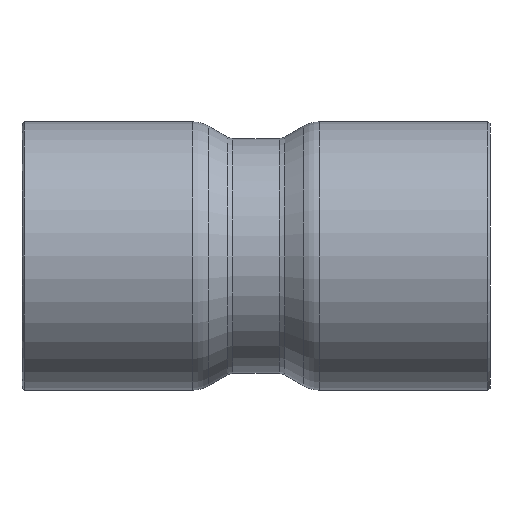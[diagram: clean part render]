
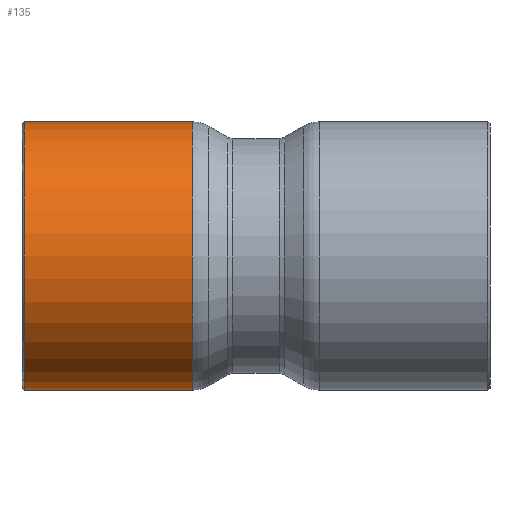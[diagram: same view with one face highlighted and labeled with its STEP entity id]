
A CAD part, front view. The second image highlights one B-rep face of the part: STEP entity #135.
In plain terms, the highlighted cylindrical face has radius 12.7 mm (diameter 25.4 mm), a full revolution.
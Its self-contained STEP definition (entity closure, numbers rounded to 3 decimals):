
#84=CARTESIAN_POINT('',(-21.95,12.7,0.));
#85=VERTEX_POINT('',#84);
#86=CARTESIAN_POINT('',(-21.95,0.0,0.0));
#87=DIRECTION('',(-1.0,0.0,0.0));
#88=DIRECTION('',(0.0,-1.0,0.0));
#89=AXIS2_PLACEMENT_3D('',#86,#87,#88);
#90=CIRCLE('',#89,12.7);
#91=EDGE_CURVE('',#85,#85,#90,.T.);
#116=CARTESIAN_POINT('',(-14.086,0.0,0.0));
#117=DIRECTION('',(1.0,0.0,0.0));
#118=DIRECTION('',(0.0,1.0,0.0));
#119=AXIS2_PLACEMENT_3D('',#116,#117,#118);
#120=CYLINDRICAL_SURFACE('',#119,12.7);
#121=CARTESIAN_POINT('',(-6.022,12.7,0.0));
#122=VERTEX_POINT('',#121);
#123=CARTESIAN_POINT('',(-6.022,0.0,0.0));
#124=DIRECTION('',(1.0,0.0,0.0));
#125=DIRECTION('',(0.0,1.0,0.0));
#126=AXIS2_PLACEMENT_3D('',#123,#124,#125);
#127=CIRCLE('',#126,12.7);
#128=EDGE_CURVE('',#122,#122,#127,.T.);
#129=ORIENTED_EDGE('',*,*,#128,.F.);
#130=EDGE_LOOP('',(#129));
#131=FACE_OUTER_BOUND('',#130,.T.);
#132=ORIENTED_EDGE('',*,*,#91,.F.);
#133=EDGE_LOOP('',(#132));
#134=FACE_BOUND('',#133,.T.);
#135=ADVANCED_FACE('',(#131,#134),#120,.T.);
